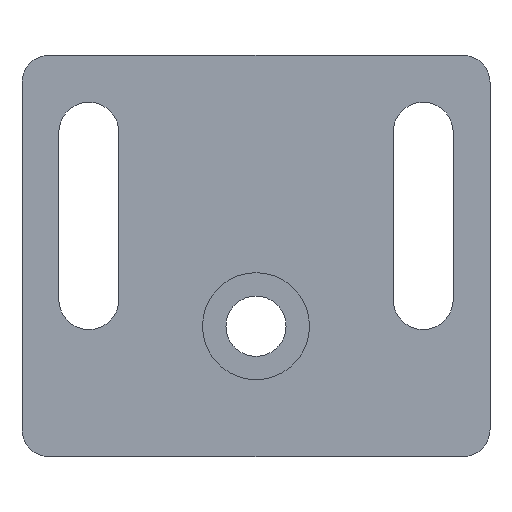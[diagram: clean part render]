
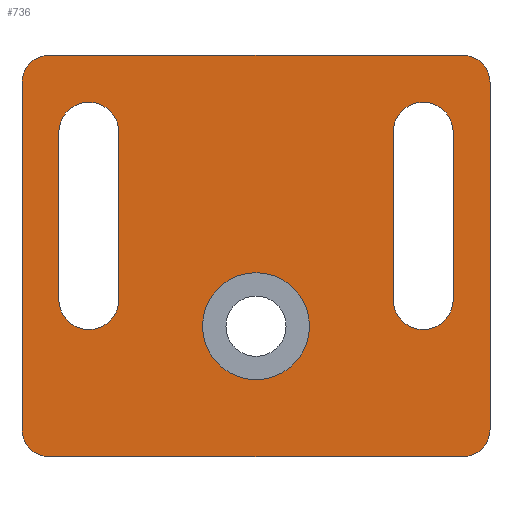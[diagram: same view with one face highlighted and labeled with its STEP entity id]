
A CAD part, front view. The second image highlights one B-rep face of the part: STEP entity #736.
In plain terms, the highlighted planar face has unit normal (0, -1, 0).
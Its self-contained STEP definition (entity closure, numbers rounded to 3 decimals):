
#22=FACE_BOUND('',#134,.T.);
#23=FACE_BOUND('',#135,.T.);
#24=FACE_BOUND('',#136,.T.);
#46=PLANE('',#835);
#86=FACE_OUTER_BOUND('',#133,.T.);
#133=EDGE_LOOP('',(#662,#663,#664,#665,#666,#667,#668,#669));
#134=EDGE_LOOP('',(#670));
#135=EDGE_LOOP('',(#671,#672,#673,#674));
#136=EDGE_LOOP('',(#675,#676,#677,#678));
#167=LINE('',#1160,#233);
#170=LINE('',#1167,#236);
#184=LINE('',#1210,#250);
#186=LINE('',#1216,#252);
#189=LINE('',#1228,#255);
#193=LINE('',#1240,#259);
#197=LINE('',#1252,#263);
#201=LINE('',#1263,#267);
#233=VECTOR('',#944,10.);
#236=VECTOR('',#953,10.);
#250=VECTOR('',#995,10.);
#252=VECTOR('',#1003,10.);
#255=VECTOR('',#1014,10.);
#259=VECTOR('',#1026,10.);
#263=VECTOR('',#1038,10.);
#267=VECTOR('',#1050,10.);
#280=CIRCLE('',#782,4.);
#287=CIRCLE('',#796,2.25);
#288=CIRCLE('',#799,2.25);
#295=CIRCLE('',#813,2.25);
#296=CIRCLE('',#816,2.25);
#297=CIRCLE('',#819,2.);
#299=CIRCLE('',#823,2.);
#301=CIRCLE('',#827,2.);
#303=CIRCLE('',#831,2.);
#324=VERTEX_POINT('',#1114);
#337=VERTEX_POINT('',#1153);
#338=VERTEX_POINT('',#1155);
#339=VERTEX_POINT('',#1159);
#340=VERTEX_POINT('',#1163);
#353=VERTEX_POINT('',#1202);
#354=VERTEX_POINT('',#1204);
#355=VERTEX_POINT('',#1208);
#356=VERTEX_POINT('',#1212);
#357=VERTEX_POINT('',#1218);
#358=VERTEX_POINT('',#1219);
#361=VERTEX_POINT('',#1227);
#363=VERTEX_POINT('',#1233);
#365=VERTEX_POINT('',#1239);
#367=VERTEX_POINT('',#1245);
#369=VERTEX_POINT('',#1251);
#371=VERTEX_POINT('',#1257);
#400=EDGE_CURVE('',#324,#324,#280,.T.);
#420=EDGE_CURVE('',#338,#337,#287,.T.);
#422=EDGE_CURVE('',#339,#338,#167,.T.);
#424=EDGE_CURVE('',#340,#339,#288,.T.);
#426=EDGE_CURVE('',#337,#340,#170,.T.);
#444=EDGE_CURVE('',#354,#353,#295,.T.);
#447=EDGE_CURVE('',#353,#355,#184,.T.);
#449=EDGE_CURVE('',#355,#356,#296,.T.);
#450=EDGE_CURVE('',#356,#354,#186,.T.);
#451=EDGE_CURVE('',#357,#358,#297,.T.);
#455=EDGE_CURVE('',#361,#357,#189,.T.);
#458=EDGE_CURVE('',#363,#361,#299,.T.);
#461=EDGE_CURVE('',#365,#363,#193,.T.);
#464=EDGE_CURVE('',#367,#365,#301,.T.);
#467=EDGE_CURVE('',#369,#367,#197,.T.);
#470=EDGE_CURVE('',#371,#369,#303,.T.);
#473=EDGE_CURVE('',#358,#371,#201,.T.);
#662=ORIENTED_EDGE('',*,*,#473,.F.);
#663=ORIENTED_EDGE('',*,*,#451,.F.);
#664=ORIENTED_EDGE('',*,*,#455,.F.);
#665=ORIENTED_EDGE('',*,*,#458,.F.);
#666=ORIENTED_EDGE('',*,*,#461,.F.);
#667=ORIENTED_EDGE('',*,*,#464,.F.);
#668=ORIENTED_EDGE('',*,*,#467,.F.);
#669=ORIENTED_EDGE('',*,*,#470,.F.);
#670=ORIENTED_EDGE('',*,*,#400,.T.);
#671=ORIENTED_EDGE('',*,*,#420,.T.);
#672=ORIENTED_EDGE('',*,*,#426,.T.);
#673=ORIENTED_EDGE('',*,*,#424,.T.);
#674=ORIENTED_EDGE('',*,*,#422,.T.);
#675=ORIENTED_EDGE('',*,*,#444,.T.);
#676=ORIENTED_EDGE('',*,*,#447,.T.);
#677=ORIENTED_EDGE('',*,*,#449,.T.);
#678=ORIENTED_EDGE('',*,*,#450,.T.);
#736=ADVANCED_FACE('',(#86,#22,#23,#24),#46,.T.);
#782=AXIS2_PLACEMENT_3D('',#1115,#898,#899);
#796=AXIS2_PLACEMENT_3D('',#1156,#939,#940);
#799=AXIS2_PLACEMENT_3D('',#1164,#948,#949);
#813=AXIS2_PLACEMENT_3D('',#1205,#989,#990);
#816=AXIS2_PLACEMENT_3D('',#1214,#999,#1000);
#819=AXIS2_PLACEMENT_3D('',#1220,#1006,#1007);
#823=AXIS2_PLACEMENT_3D('',#1234,#1019,#1020);
#827=AXIS2_PLACEMENT_3D('',#1246,#1031,#1032);
#831=AXIS2_PLACEMENT_3D('',#1258,#1043,#1044);
#835=AXIS2_PLACEMENT_3D('',#1266,#1054,#1055);
#898=DIRECTION('center_axis',(0.,1.,0.));
#899=DIRECTION('ref_axis',(1.,0.,0.));
#939=DIRECTION('center_axis',(0.,1.,0.));
#940=DIRECTION('ref_axis',(-1.,0.,0.));
#944=DIRECTION('',(0.,0.,1.));
#948=DIRECTION('center_axis',(0.,1.,0.));
#949=DIRECTION('ref_axis',(-1.,0.,0.));
#953=DIRECTION('',(0.,0.,-1.));
#989=DIRECTION('center_axis',(0.,1.,0.));
#990=DIRECTION('ref_axis',(-1.,0.,0.));
#995=DIRECTION('',(0.,0.,-1.));
#999=DIRECTION('center_axis',(0.,1.,0.));
#1000=DIRECTION('ref_axis',(-1.,0.,0.));
#1003=DIRECTION('',(0.,0.,1.));
#1006=DIRECTION('center_axis',(0.,1.,0.));
#1007=DIRECTION('ref_axis',(-1.,0.,0.));
#1014=DIRECTION('',(0.,0.,1.));
#1019=DIRECTION('center_axis',(0.,1.,0.));
#1020=DIRECTION('ref_axis',(0.,0.,-1.));
#1026=DIRECTION('',(-1.,0.,0.));
#1031=DIRECTION('center_axis',(0.,1.,0.));
#1032=DIRECTION('ref_axis',(1.,0.,0.));
#1038=DIRECTION('',(0.,0.,-1.));
#1043=DIRECTION('center_axis',(0.,1.,0.));
#1044=DIRECTION('ref_axis',(0.,0.,1.));
#1050=DIRECTION('',(1.,0.,0.));
#1054=DIRECTION('center_axis',(0.,-1.,0.));
#1055=DIRECTION('ref_axis',(0.,0.,-1.));
#1114=CARTESIAN_POINT('',(-4.,0.,-5.25));
#1115=CARTESIAN_POINT('Origin',(0.,0.,-5.25));
#1153=CARTESIAN_POINT('',(14.75,0.,9.25));
#1155=CARTESIAN_POINT('',(10.25,0.,9.25));
#1156=CARTESIAN_POINT('Origin',(12.5,0.,9.25));
#1159=CARTESIAN_POINT('',(10.25,0.,-3.25));
#1160=CARTESIAN_POINT('',(10.25,0.,4.625));
#1163=CARTESIAN_POINT('',(14.75,0.,-3.25));
#1164=CARTESIAN_POINT('Origin',(12.5,0.,-3.25));
#1167=CARTESIAN_POINT('',(14.75,0.,-1.625));
#1202=CARTESIAN_POINT('',(-10.25,0.,9.25));
#1204=CARTESIAN_POINT('',(-14.75,0.,9.25));
#1205=CARTESIAN_POINT('Origin',(-12.5,0.,9.25));
#1208=CARTESIAN_POINT('',(-10.25,0.,-3.25));
#1210=CARTESIAN_POINT('',(-10.25,0.,-1.625));
#1212=CARTESIAN_POINT('',(-14.75,0.,-3.25));
#1214=CARTESIAN_POINT('Origin',(-12.5,0.,-3.25));
#1216=CARTESIAN_POINT('',(-14.75,0.,4.625));
#1218=CARTESIAN_POINT('',(-17.5,0.,13.));
#1219=CARTESIAN_POINT('',(-15.5,0.,15.));
#1220=CARTESIAN_POINT('Origin',(-15.5,0.,13.));
#1227=CARTESIAN_POINT('',(-17.5,0.,-13.));
#1228=CARTESIAN_POINT('',(-17.5,0.,-13.));
#1233=CARTESIAN_POINT('',(-15.5,0.,-15.));
#1234=CARTESIAN_POINT('Origin',(-15.5,0.,-13.));
#1239=CARTESIAN_POINT('',(15.5,0.,-15.));
#1240=CARTESIAN_POINT('',(15.5,0.,-15.));
#1245=CARTESIAN_POINT('',(17.5,0.,-13.));
#1246=CARTESIAN_POINT('Origin',(15.5,0.,-13.));
#1251=CARTESIAN_POINT('',(17.5,0.,13.));
#1252=CARTESIAN_POINT('',(17.5,0.,13.));
#1257=CARTESIAN_POINT('',(15.5,0.,15.));
#1258=CARTESIAN_POINT('Origin',(15.5,0.,13.));
#1263=CARTESIAN_POINT('',(-15.5,0.,15.));
#1266=CARTESIAN_POINT('Origin',(0.,0.,0.));
